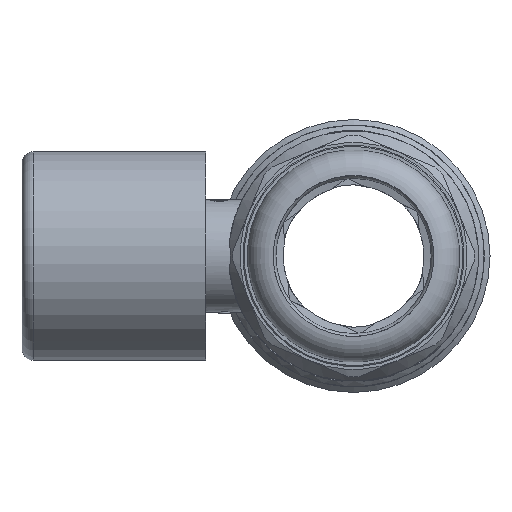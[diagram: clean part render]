
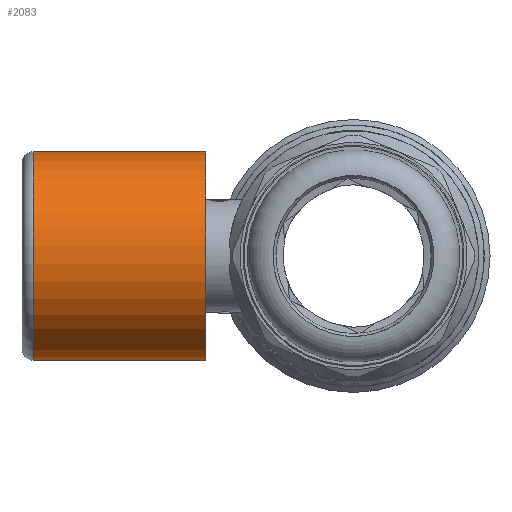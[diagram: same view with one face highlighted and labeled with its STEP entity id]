
A CAD part, left-side view. The second image highlights one B-rep face of the part: STEP entity #2083.
In plain terms, the highlighted cylindrical face has radius 18.2 mm (diameter 36.4 mm), a full revolution.
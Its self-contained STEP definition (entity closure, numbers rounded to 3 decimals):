
#2041=CARTESIAN_POINT('',(-4.5,55.7,17.635));
#2042=VERTEX_POINT('',#2041);
#2043=CARTESIAN_POINT('',(0.,55.7,0.));
#2044=DIRECTION('',(0.0,1.,0.0));
#2045=DIRECTION('',(-0.247,0.0,0.969));
#2046=AXIS2_PLACEMENT_3D('',#2043,#2044,#2045);
#2047=CIRCLE('',#2046,18.2);
#2048=EDGE_CURVE('',#2042,#2042,#2047,.T.);
#2064=CARTESIAN_POINT('',(0.,40.7,0.));
#2065=DIRECTION('',(0.0,1.0,0.0));
#2066=DIRECTION('',(-0.969,0.0,-0.247));
#2067=AXIS2_PLACEMENT_3D('',#2064,#2065,#2066);
#2068=CYLINDRICAL_SURFACE('',#2067,18.2);
#2069=CARTESIAN_POINT('',(-4.5,25.7,17.635));
#2070=VERTEX_POINT('',#2069);
#2071=CARTESIAN_POINT('',(0.,25.7,0.));
#2072=DIRECTION('',(0.0,1.,0.0));
#2073=DIRECTION('',(-0.247,0.0,0.969));
#2074=AXIS2_PLACEMENT_3D('',#2071,#2072,#2073);
#2075=CIRCLE('',#2074,18.2);
#2076=EDGE_CURVE('',#2070,#2070,#2075,.T.);
#2077=ORIENTED_EDGE('',*,*,#2076,.T.);
#2078=EDGE_LOOP('',(#2077));
#2079=FACE_OUTER_BOUND('',#2078,.T.);
#2080=ORIENTED_EDGE('',*,*,#2048,.F.);
#2081=EDGE_LOOP('',(#2080));
#2082=FACE_BOUND('',#2081,.T.);
#2083=ADVANCED_FACE('',(#2079,#2082),#2068,.T.);
